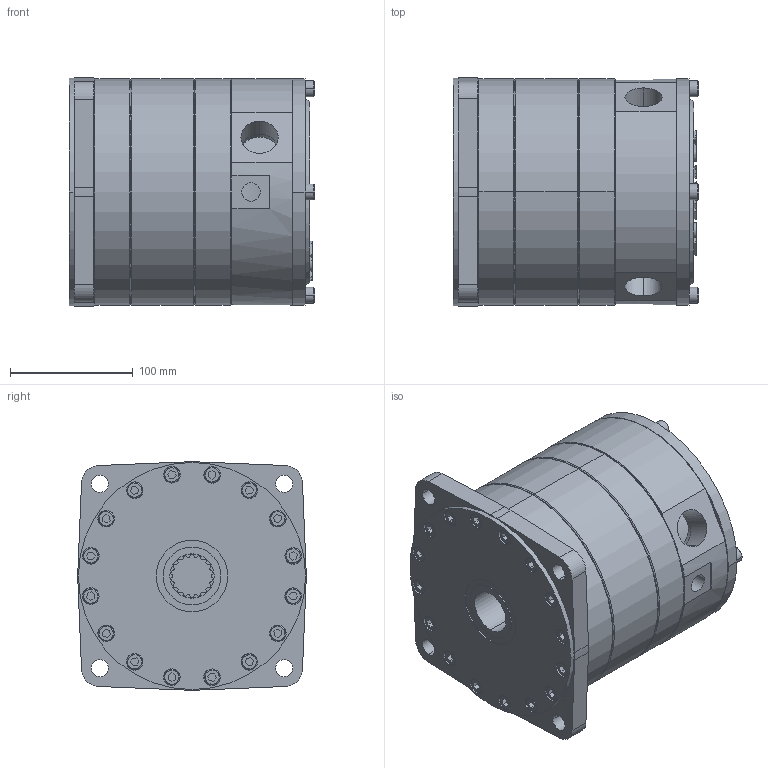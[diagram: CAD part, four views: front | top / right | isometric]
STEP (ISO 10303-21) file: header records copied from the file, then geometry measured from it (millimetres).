
FILE_DESCRIPTION(('Creo Elements/Direct Modeling STEP Export'),'2;1');
FILE_NAME('M25 radial.stp','2017-07-10T14:47:07',(''),(''),'PTC Creo Elements/Direct Modeling STEP processor for AP214 (Solid Model)','PTC Creo Elements/Direct Modeling 19.0C 15-Aug-2015 (C) Parametric Technology GmbH','');
FILE_SCHEMA(('AUTOMOTIVE_DESIGN { 1 0 10303 214 1 1 1 1 }'));
Length unit declared in the file: millimetre
Products named in the file (2): M25
Assembly tree (1 placements, depth 2):
  M25
    M25
Bounding box: 200 x 185.98 x 185.98 mm (x, y, z)
Volume: 5117738.4 mm3; surface area: 220318.2 mm2
Topology: 1 solids, 1 shells, 564 faces, 1386 edges, 902 vertices
Faces by surface type: plane 248, cylinder 202, extrusion 53, cone 43, torus 18
Entity records: 22830 total; most frequent: CARTESIAN_POINT 8904, ORIENTED_EDGE 2772, DIRECTION 2470, EDGE_CURVE 1386, VERTEX_POINT 902, VECTOR 842, AXIS2_PLACEMENT_3D 814, LINE 789
